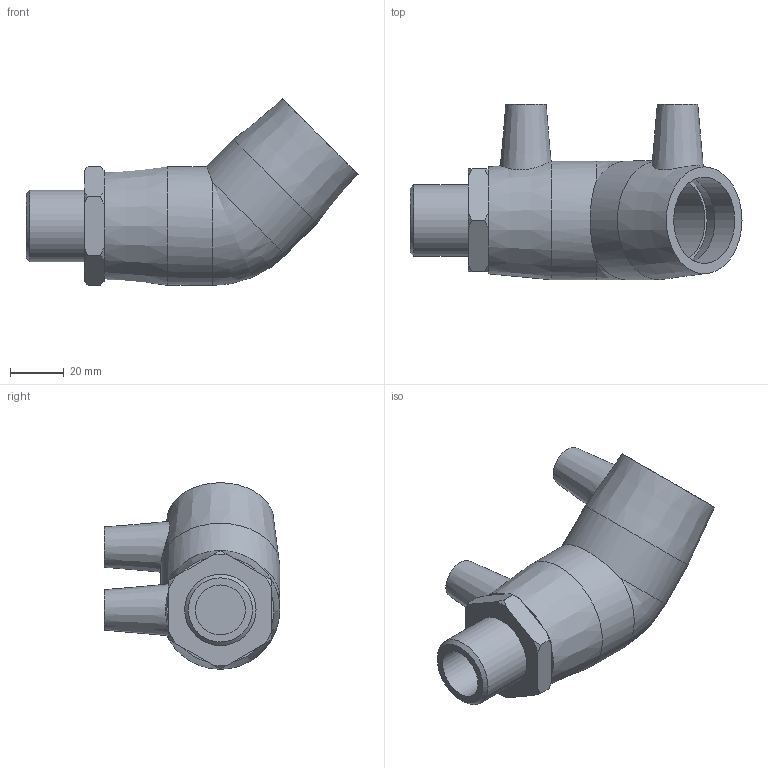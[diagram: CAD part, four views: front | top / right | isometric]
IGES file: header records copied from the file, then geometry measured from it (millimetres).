
Global section: file name: 492604032007.ipt; native system: Autodesk Inventor 2015; preprocessor: unknown; author: KIM; date: 20200202.122400; units: millimetre
Bounding box: 123 x 65 x 69.14 mm (x, y, z)
Volume: 106757.5 mm3; surface area: 32240.3 mm2
Topology: 1 solids, 2 shells, 59 faces, 142 edges, 97 vertices
Faces by surface type: plane 24, cone 17, revolution 10, cylinder 7, bspline 1
Full cylindrical faces by diameter (mm): 4 x2, 26.441 x1, 32 x2, 44 x2
